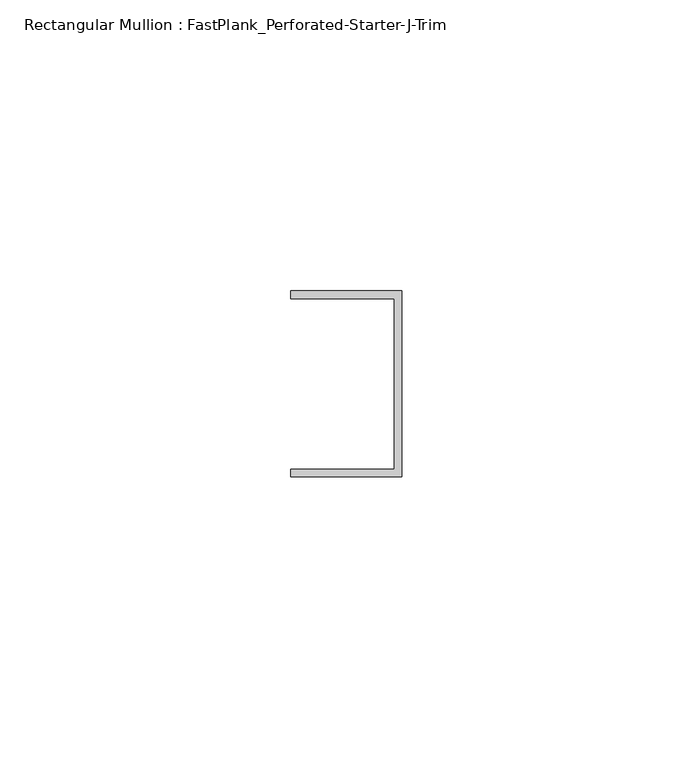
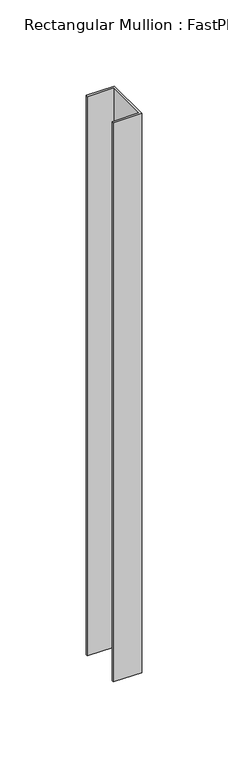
"""IFC4 building model written with IfcOpenShell, lengths in millimetres: member geometry, Rectangular Mullion : FastPlank_Perforated-Starter-J-Trim."""

from ifc_helpers import new_model, si_unit, frame, origin, place, context, project, spatial, polyline, outline, extrude, source, transform, mapped, element, save


def rectangular_mullion_fastplank_perforated_starter_j_trim_428297b2(model_context):
    return source(origin(), model_context, "Body", "SweptSolid", [
        extrude(outline(polyline([(0.0, 10.2620691), (0.0, -21.6412691), (-19.05, -21.6412691), (-19.05, -20.3412717), (-1.3000189, -20.3412717), (-1.3000189, 8.9620717), (-19.05, 8.9620717), (-19.05, 10.2620691), (0.0, 10.2620691)])), frame((0.0, 0.0, -396.8843345), z_axis=(0.0, 0.0, 1.0), x_axis=(1.0, 0.0, 0.0)), (0.0, 0.0, 1.0), 396.8843345),
    ])


if __name__ == "__main__":
    model = new_model("IFC4")
    model_context = context("Model", 3, world=origin())
    ifc_project = project(units=[si_unit("LENGTHUNIT", "METRE", prefix="MILLI")], contexts=[model_context])
    site = spatial("IfcSite", under=ifc_project)
    building = spatial("IfcBuilding", under=site)
    placement = place(None, origin())
    rectangular_mullion_fastplank_perforated_starter_j_trim_shape = rectangular_mullion_fastplank_perforated_starter_j_trim_428297b2(model_context)
    element("IfcMember", 1, ObjectType="Rectangular Mullion : FastPlank_Perforated-Starter-J-Trim", at=placement, inside=building, context=model_context, shape_type="MappedRepresentation", body=[
        mapped(rectangular_mullion_fastplank_perforated_starter_j_trim_shape, transform((0.0, 0.0, 0.0), x_axis=(1.0, 0.0, 0.0), y_axis=(0.0, 1.0, 0.0), z_axis=(0.0, 0.0, 1.0))),
    ])
    save(model, "model.ifc")
